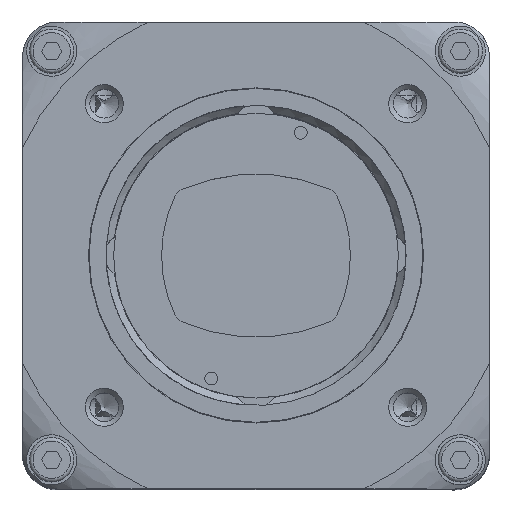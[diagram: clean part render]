
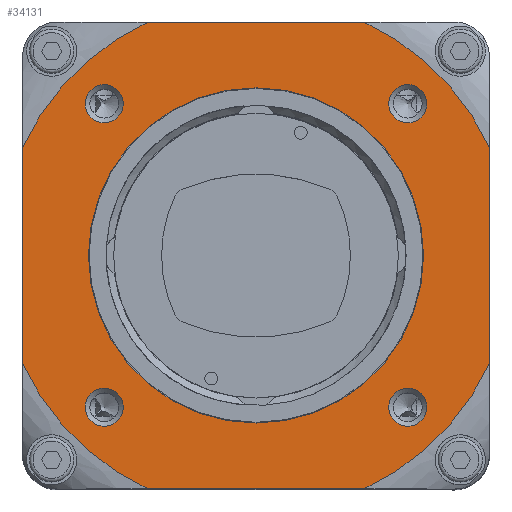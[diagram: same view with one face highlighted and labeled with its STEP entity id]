
A CAD part, top view. The second image highlights one B-rep face of the part: STEP entity #34131.
In plain terms, the highlighted planar face has unit normal (0, 0, 1).
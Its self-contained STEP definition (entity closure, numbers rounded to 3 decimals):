
#905=LINE('',#47381,#2459);
#909=LINE('',#47406,#2463);
#913=LINE('',#47431,#2467);
#917=LINE('',#47456,#2471);
#2459=VECTOR('',#39986,1000.);
#2463=VECTOR('',#39996,1000.);
#2467=VECTOR('',#40006,1000.);
#2471=VECTOR('',#40016,1000.);
#5807=ORIENTED_EDGE('',*,*,#11627,.T.);
#5808=ORIENTED_EDGE('',*,*,#11628,.T.);
#5809=ORIENTED_EDGE('',*,*,#11629,.T.);
#5810=ORIENTED_EDGE('',*,*,#11630,.T.);
#5811=ORIENTED_EDGE('',*,*,#11534,.T.);
#5812=ORIENTED_EDGE('',*,*,#11561,.F.);
#5813=ORIENTED_EDGE('',*,*,#11631,.T.);
#5814=ORIENTED_EDGE('',*,*,#11553,.F.);
#5815=ORIENTED_EDGE('',*,*,#11632,.T.);
#5816=ORIENTED_EDGE('',*,*,#11545,.F.);
#5817=ORIENTED_EDGE('',*,*,#11633,.T.);
#5818=ORIENTED_EDGE('',*,*,#11537,.F.);
#5819=ORIENTED_EDGE('',*,*,#11634,.T.);
#11534=EDGE_CURVE('',#14644,#14644,#16823,.T.);
#11537=EDGE_CURVE('',#14647,#14648,#905,.T.);
#11545=EDGE_CURVE('',#14655,#14656,#909,.T.);
#11553=EDGE_CURVE('',#14663,#14664,#913,.T.);
#11561=EDGE_CURVE('',#14671,#14672,#917,.T.);
#11627=EDGE_CURVE('',#14721,#14721,#16872,.T.);
#11628=EDGE_CURVE('',#14722,#14722,#16873,.T.);
#11629=EDGE_CURVE('',#14723,#14723,#16874,.T.);
#11630=EDGE_CURVE('',#14724,#14724,#16875,.T.);
#11631=EDGE_CURVE('',#14671,#14664,#16876,.T.);
#11632=EDGE_CURVE('',#14663,#14656,#16877,.T.);
#11633=EDGE_CURVE('',#14655,#14648,#16878,.T.);
#11634=EDGE_CURVE('',#14647,#14672,#16879,.T.);
#14644=VERTEX_POINT('',#47375);
#14647=VERTEX_POINT('',#47382);
#14648=VERTEX_POINT('',#47383);
#14655=VERTEX_POINT('',#47407);
#14656=VERTEX_POINT('',#47408);
#14663=VERTEX_POINT('',#47432);
#14664=VERTEX_POINT('',#47433);
#14671=VERTEX_POINT('',#47457);
#14672=VERTEX_POINT('',#47458);
#14721=VERTEX_POINT('',#47665);
#14722=VERTEX_POINT('',#47667);
#14723=VERTEX_POINT('',#47669);
#14724=VERTEX_POINT('',#47671);
#16823=CIRCLE('',#36052,14.35);
#16872=CIRCLE('',#36133,1.63);
#16873=CIRCLE('',#36134,1.63);
#16874=CIRCLE('',#36135,1.63);
#16875=CIRCLE('',#36136,1.63);
#16876=CIRCLE('',#36137,22.031);
#16877=CIRCLE('',#36138,22.031);
#16878=CIRCLE('',#36139,22.031);
#16879=CIRCLE('',#36140,22.031);
#18459=EDGE_LOOP('',(#5807));
#18460=EDGE_LOOP('',(#5808));
#18461=EDGE_LOOP('',(#5809));
#18462=EDGE_LOOP('',(#5810));
#18463=EDGE_LOOP('',(#5811));
#18464=EDGE_LOOP('',(#5812,#5813,#5814,#5815,#5816,#5817,#5818,#5819));
#20663=FACE_BOUND('',#18459,.T.);
#20664=FACE_BOUND('',#18460,.T.);
#20665=FACE_BOUND('',#18461,.T.);
#20666=FACE_BOUND('',#18462,.T.);
#20667=FACE_BOUND('',#18463,.T.);
#20668=FACE_BOUND('',#18464,.T.);
#22382=PLANE('',#36132);
#34131=ADVANCED_FACE('',(#20663,#20664,#20665,#20666,#20667,#20668),#22382,
 .F.);
#36052=AXIS2_PLACEMENT_3D('',#47374,#39978,#39979);
#36132=AXIS2_PLACEMENT_3D('',#47663,#40158,#40159);
#36133=AXIS2_PLACEMENT_3D('',#47664,#40160,#40161);
#36134=AXIS2_PLACEMENT_3D('',#47666,#40162,#40163);
#36135=AXIS2_PLACEMENT_3D('',#47668,#40164,#40165);
#36136=AXIS2_PLACEMENT_3D('',#47670,#40166,#40167);
#36137=AXIS2_PLACEMENT_3D('',#47672,#40168,#40169);
#36138=AXIS2_PLACEMENT_3D('',#47673,#40170,#40171);
#36139=AXIS2_PLACEMENT_3D('',#47674,#40172,#40173);
#36140=AXIS2_PLACEMENT_3D('',#47675,#40174,#40175);
#39978=DIRECTION('',(0.,0.,-1.));
#39979=DIRECTION('',(1.,0.,0.));
#39986=DIRECTION('',(0.,-1.,0.));
#39996=DIRECTION('',(-1.,0.,0.));
#40006=DIRECTION('',(0.,1.,0.));
#40016=DIRECTION('',(1.,0.,0.));
#40158=DIRECTION('',(0.,0.,-1.));
#40159=DIRECTION('',(-1.,0.,0.));
#40160=DIRECTION('',(0.,0.,-1.));
#40161=DIRECTION('',(-1.,0.,0.));
#40162=DIRECTION('',(0.,0.,-1.));
#40163=DIRECTION('',(-1.,0.,0.));
#40164=DIRECTION('',(0.,0.,-1.));
#40165=DIRECTION('',(-1.,0.,0.));
#40166=DIRECTION('',(0.,0.,-1.));
#40167=DIRECTION('',(-1.,0.,0.));
#40168=DIRECTION('',(0.,0.,1.));
#40169=DIRECTION('',(1.,0.,0.));
#40170=DIRECTION('',(0.,0.,1.));
#40171=DIRECTION('',(1.,0.,0.));
#40172=DIRECTION('',(0.,0.,1.));
#40173=DIRECTION('',(1.,0.,0.));
#40174=DIRECTION('',(0.,0.,1.));
#40175=DIRECTION('',(1.,0.,0.));
#47374=CARTESIAN_POINT('',(0.,0.,12.3));
#47375=CARTESIAN_POINT('',(14.35,0.,12.3));
#47381=CARTESIAN_POINT('',(20.,20.,12.3));
#47382=CARTESIAN_POINT('',(20.,9.238,12.3));
#47383=CARTESIAN_POINT('',(20.,-9.238,12.3));
#47406=CARTESIAN_POINT('',(20.,-20.,12.3));
#47407=CARTESIAN_POINT('',(9.238,-20.,12.3));
#47408=CARTESIAN_POINT('',(-9.238,-20.,12.3));
#47431=CARTESIAN_POINT('',(-20.,-20.,12.3));
#47432=CARTESIAN_POINT('',(-20.,-9.238,12.3));
#47433=CARTESIAN_POINT('',(-20.,9.238,12.3));
#47456=CARTESIAN_POINT('',(-20.,20.,12.3));
#47457=CARTESIAN_POINT('',(-9.238,20.,12.3));
#47458=CARTESIAN_POINT('',(9.238,20.,12.3));
#47663=CARTESIAN_POINT('',(0.,0.,12.3));
#47664=CARTESIAN_POINT('',(13.,-13.,12.3));
#47665=CARTESIAN_POINT('',(11.371,-13.,12.3));
#47666=CARTESIAN_POINT('',(-13.,-13.,12.3));
#47667=CARTESIAN_POINT('',(-14.63,-13.,12.3));
#47668=CARTESIAN_POINT('',(-13.,13.,12.3));
#47669=CARTESIAN_POINT('',(-14.63,13.,12.3));
#47670=CARTESIAN_POINT('',(13.,13.,12.3));
#47671=CARTESIAN_POINT('',(11.371,13.,12.3));
#47672=CARTESIAN_POINT('',(0.,0.,12.3));
#47673=CARTESIAN_POINT('',(0.,0.,12.3));
#47674=CARTESIAN_POINT('',(0.,0.,12.3));
#47675=CARTESIAN_POINT('',(0.,0.,12.3));
